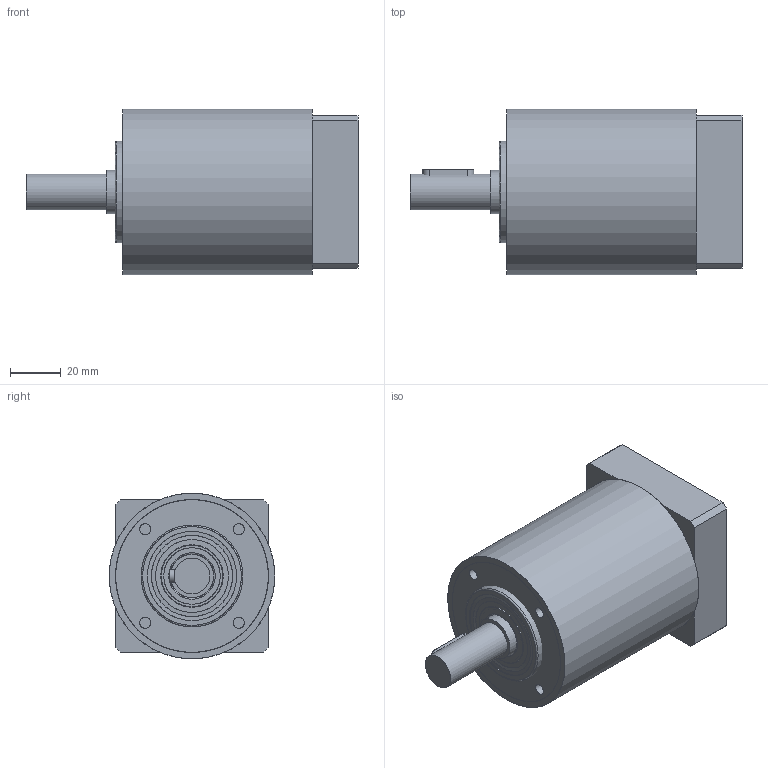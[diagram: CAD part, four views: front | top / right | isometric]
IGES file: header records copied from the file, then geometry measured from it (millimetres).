
Global section: file name: D:\ASSYCONF\WORK_DIRS\TEMP_#4\E00017964713MP040509081207_iges3D.igs; native system: NX V5.0; preprocessor: UGS NX IGES V5.0; date: 20090504.081331; units: millimetre
Bounding box: 130.25 x 65 x 65 mm (x, y, z)
Surface area: 72087.2 mm2 (no closed solid volume)
Topology: 0 solids, 0 shells, 135 faces, 2516 edges, 2439 vertices
Faces by surface type: revolution 87, extrusion 48
